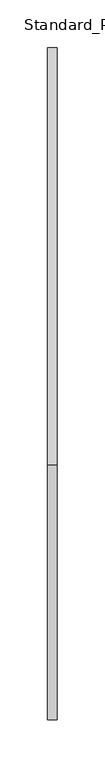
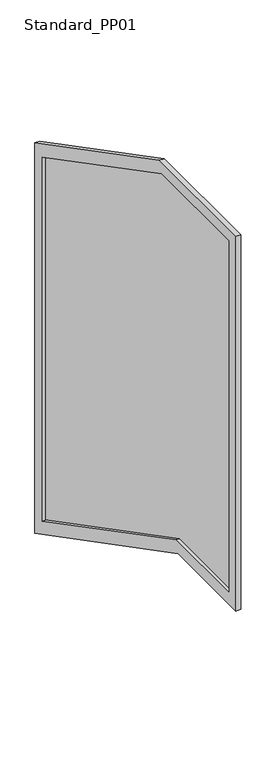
"""IFC4 building model written with IfcOpenShell, lengths in millimetres: railing geometry, Baluster-Landing-Panel-VIVA-STRUC-Lower : Standard_PP01."""

from ifc_helpers import new_model, si_unit, frame, origin, place, context, project, spatial, polyline, outline, extrude, source, transform, mapped, element, save


def standard_pp01_e994811a(model_context):
    return source(origin(), model_context, "Body", "SweptSolid", [
        extrude(outline(polyline([(-493.8129998, 157.4996701), (-676.4363344, 157.4996701), (-676.4363344, 906.145), (-441.4187834, 906.145), (-25.4, 689.579329), (-25.4, -86.3407036), (-493.8129998, 157.4996701)])), frame((14.2584857, 0.0, 0.0), z_axis=(1.0, 0.0, 0.0), x_axis=(0.0, 1.0, 0.0)), (0.0, 0.0, 1.0), 2.9972),
        extrude(outline(polyline([(0.0, -128.1986081), (-500.0283402, 132.0996701), (-701.8363344, 132.0996701), (-701.8363344, 931.545), (-435.2034429, 931.545), (0.0, 704.9924273), (0.0, -128.1986081)]), holes=[polyline([(-676.4363344, 906.145), (-676.4363344, 157.4996701), (-493.8129998, 157.4996701), (-25.4, -86.3407036), (-25.4, 689.579329), (-441.4187834, 906.145), (-676.4363344, 906.145)])]), frame((7.6036857, 0.0, 0.0), z_axis=(1.0, 0.0, 0.0), x_axis=(0.0, 1.0, 0.0)), (0.0, 0.0, 1.0), 9.652),
    ])


if __name__ == "__main__":
    model = new_model("IFC4")
    model_context = context("Model", 3, world=origin())
    ifc_project = project(units=[si_unit("LENGTHUNIT", "METRE", prefix="MILLI")], contexts=[model_context])
    site = spatial("IfcSite", under=ifc_project)
    building = spatial("IfcBuilding", under=site)
    placement = place(None, origin())
    standard_pp01_shape = standard_pp01_e994811a(model_context)
    element("IfcRailing", 1, ObjectType="Baluster-Landing-Panel-VIVA-STRUC-Lower : Standard_PP01", at=placement, inside=building, context=model_context, shape_type="MappedRepresentation", body=[
        mapped(standard_pp01_shape, transform((0.0, 0.0, 0.0), x_axis=(1.0, 0.0, 0.0), y_axis=(0.0, 1.0, 0.0), z_axis=(0.0, 0.0, 1.0))),
    ])
    save(model, "model.ifc")
